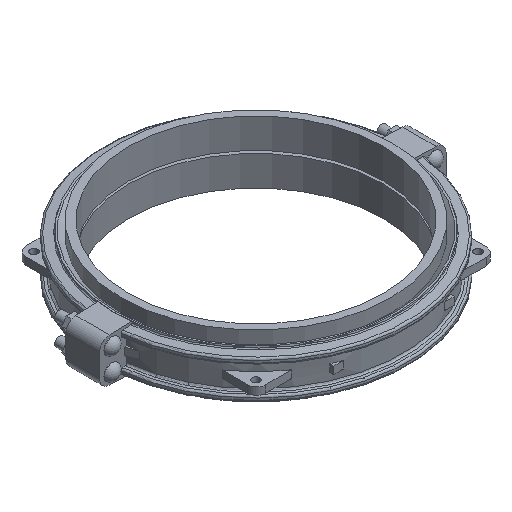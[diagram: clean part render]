
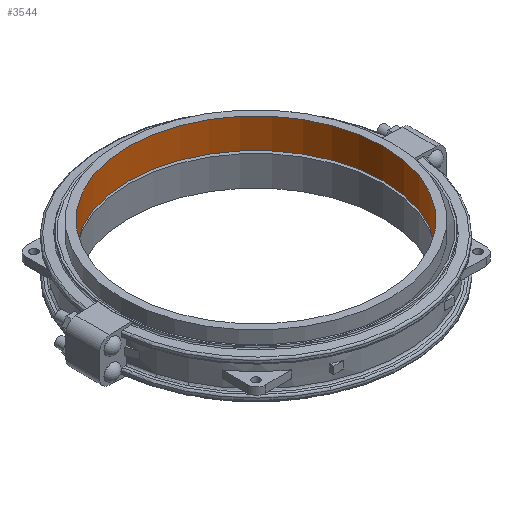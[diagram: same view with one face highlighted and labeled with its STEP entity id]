
A CAD part, isometric view. The second image highlights one B-rep face of the part: STEP entity #3544.
In plain terms, the highlighted cylindrical face has radius 431.8 mm (diameter 863.6 mm), a full revolution.
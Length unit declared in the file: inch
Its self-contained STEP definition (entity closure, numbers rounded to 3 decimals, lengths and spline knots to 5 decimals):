
#158=CYLINDRICAL_SURFACE('',#3979,17.);
#382=FACE_OUTER_BOUND('',#606,.T.);
#606=EDGE_LOOP('',(#3060,#3061,#3062,#3063,#3064,#3065));
#865=LINE('',#6479,#1122);
#1122=VECTOR('',#4960,17.);
#1291=CIRCLE('',#3977,17.);
#1292=CIRCLE('',#3978,17.);
#1293=CIRCLE('',#3980,17.);
#1294=CIRCLE('',#3981,17.);
#1623=VERTEX_POINT('',#6473);
#1624=VERTEX_POINT('',#6474);
#1625=VERTEX_POINT('',#6478);
#1626=VERTEX_POINT('',#6480);
#2103=EDGE_CURVE('',#1623,#1624,#1291,.T.);
#2104=EDGE_CURVE('',#1624,#1623,#1292,.T.);
#2105=EDGE_CURVE('',#1624,#1625,#865,.T.);
#2106=EDGE_CURVE('',#1626,#1625,#1293,.T.);
#2107=EDGE_CURVE('',#1625,#1626,#1294,.T.);
#3060=ORIENTED_EDGE('',*,*,#2103,.T.);
#3061=ORIENTED_EDGE('',*,*,#2105,.T.);
#3062=ORIENTED_EDGE('',*,*,#2106,.F.);
#3063=ORIENTED_EDGE('',*,*,#2107,.F.);
#3064=ORIENTED_EDGE('',*,*,#2105,.F.);
#3065=ORIENTED_EDGE('',*,*,#2104,.T.);
#3544=ADVANCED_FACE('',(#382),#158,.F.);
#3977=AXIS2_PLACEMENT_3D('',#6475,#4954,#4955);
#3978=AXIS2_PLACEMENT_3D('',#6476,#4956,#4957);
#3979=AXIS2_PLACEMENT_3D('',#6477,#4958,#4959);
#3980=AXIS2_PLACEMENT_3D('',#6481,#4961,#4962);
#3981=AXIS2_PLACEMENT_3D('',#6482,#4963,#4964);
#4954=DIRECTION('center_axis',(0.,0.,-1.));
#4955=DIRECTION('ref_axis',(1.,0.,0.));
#4956=DIRECTION('center_axis',(0.,0.,-1.));
#4957=DIRECTION('ref_axis',(1.,0.,0.));
#4958=DIRECTION('center_axis',(0.,0.,-1.));
#4959=DIRECTION('ref_axis',(0.,1.,0.));
#4960=DIRECTION('',(0.,0.,1.));
#4961=DIRECTION('center_axis',(0.,0.,-1.));
#4962=DIRECTION('ref_axis',(1.,0.,0.));
#4963=DIRECTION('center_axis',(0.,0.,-1.));
#4964=DIRECTION('ref_axis',(1.,0.,0.));
#6473=CARTESIAN_POINT('',(0.,17.,0.));
#6474=CARTESIAN_POINT('',(0.,-17.,0.));
#6475=CARTESIAN_POINT('Origin',(0.,0.,0.));
#6476=CARTESIAN_POINT('Origin',(0.,0.,0.));
#6477=CARTESIAN_POINT('Origin',(0.,0.,2.));
#6478=CARTESIAN_POINT('',(0.,-17.,4.));
#6479=CARTESIAN_POINT('',(0.,-17.,2.));
#6480=CARTESIAN_POINT('',(0.,17.,4.));
#6481=CARTESIAN_POINT('Origin',(0.,0.,4.));
#6482=CARTESIAN_POINT('Origin',(0.,0.,4.));
